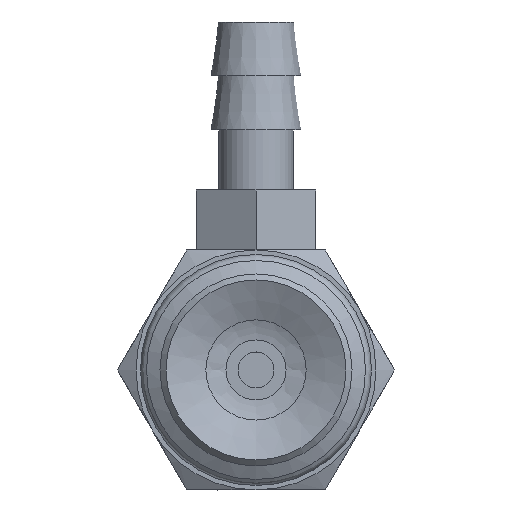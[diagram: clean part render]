
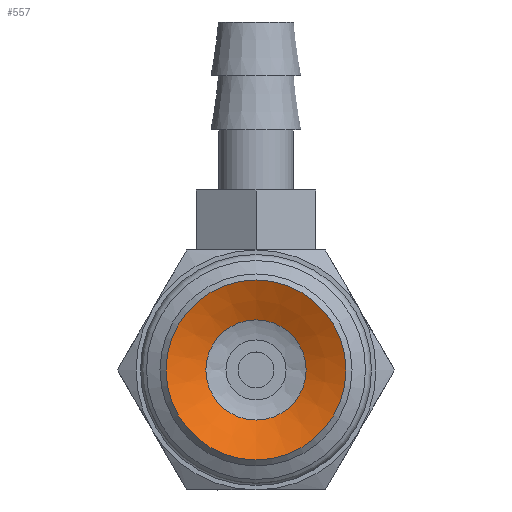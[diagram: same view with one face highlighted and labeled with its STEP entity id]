
A CAD part, front view. The second image highlights one B-rep face of the part: STEP entity #557.
In plain terms, the highlighted conical face has half-angle 64.998 degrees and reference radius 1.285 mm.
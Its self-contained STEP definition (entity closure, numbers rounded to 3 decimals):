
#557=ADVANCED_FACE('',(#831,#832),#833,.F.);
#831=FACE_BOUND('',#1180,.T.);
#832=FACE_OUTER_BOUND('',#1181,.T.);
#833=CONICAL_SURFACE('',#1182,1.285,1.134);
#1180=EDGE_LOOP('',(#1915));
#1181=EDGE_LOOP('',(#1916));
#1182=AXIS2_PLACEMENT_3D('',#1917,#1918,#1919);
#1915=ORIENTED_EDGE('',*,*,#2243,.T.);
#1916=ORIENTED_EDGE('',*,*,#2244,.T.);
#1917=CARTESIAN_POINT('',(0.0,0.8,0.0));
#1918=DIRECTION('',(-0.0,-1.0,0.));
#1919=DIRECTION('',(0.0,0.,-1.0));
#2243=EDGE_CURVE('',#2589,#2589,#2590,.T.);
#2244=EDGE_CURVE('',#2591,#2591,#2592,.T.);
#2589=VERTEX_POINT('',#3335);
#2590=CIRCLE('',#3336,1.67);
#2591=VERTEX_POINT('',#3337);
#2592=CIRCLE('',#3338,3.);
#3335=CARTESIAN_POINT('',(0.0,0.62,-1.67));
#3336=AXIS2_PLACEMENT_3D('',#3695,#3696,#3697);
#3337=CARTESIAN_POINT('',(0.0,0.,-3.));
#3338=AXIS2_PLACEMENT_3D('',#3698,#3699,#3700);
#3695=CARTESIAN_POINT('',(0.0,0.62,0.0));
#3696=DIRECTION('',(0.0,1.0,0.));
#3697=DIRECTION('',(0.0,0.,-1.0));
#3698=CARTESIAN_POINT('',(0.0,0.0,0.0));
#3699=DIRECTION('',(0.0,-1.0,0.));
#3700=DIRECTION('',(0.0,0.,-1.0));
